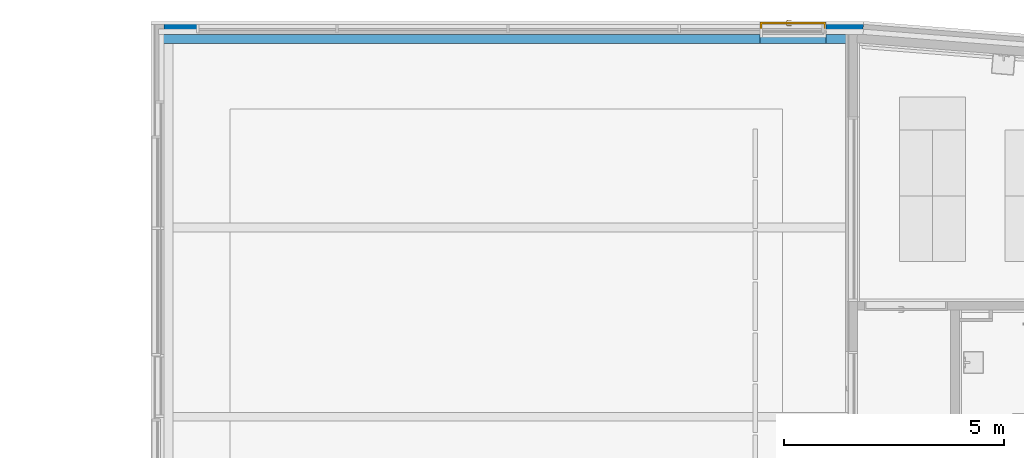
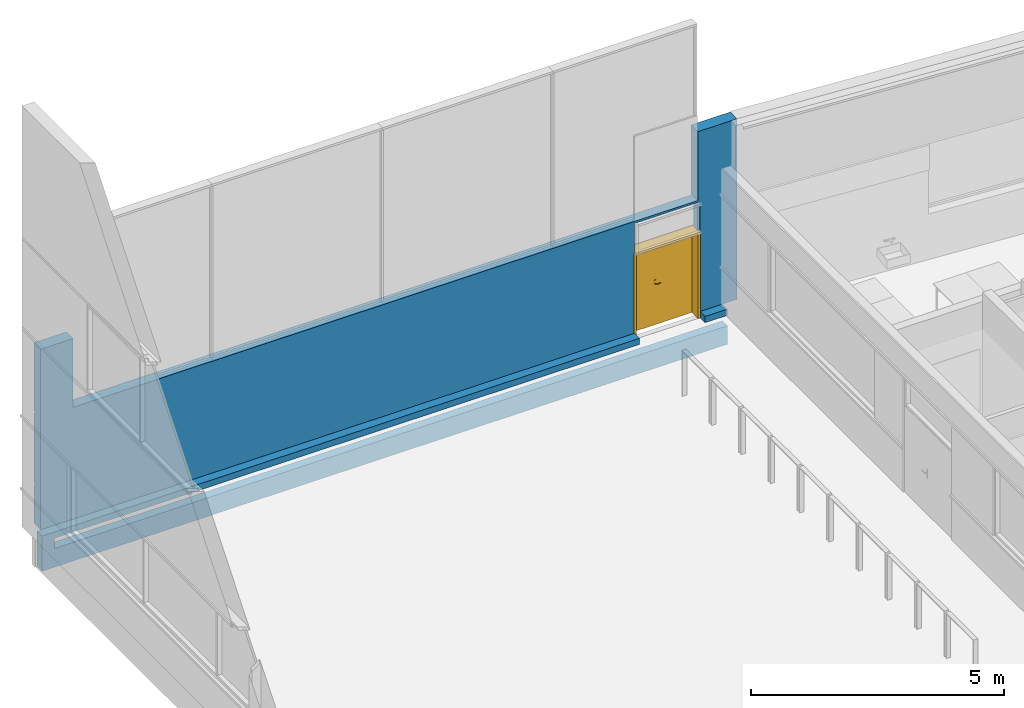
# One storey, part 105 of 137: 2 walls, 1 door, 1 opening.
"""IFC2X3 building model written with IfcOpenShell, lengths in centimetres."""

from ifc_helpers import new_model, entity, si_unit, converted_unit, derived_unit, direction, frame, frame_2d, origin, place, context, subcontext, project, spatial, rectangle, extrude, faceted_brep, source, transform, mapped, material, material_list, layer, layer_set, type_object, type_shapes, element, fill, save


model = new_model("IFC2X3")

# Units and contexts
model_context = context("Model", 3, precision=0.001, world=origin(), true_north=direction((6.12303176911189e-17, 1.0)))
body_context = subcontext(model_context, "Body", "Model", "MODEL_VIEW")
ifc_project = project(units=[si_unit("LENGTHUNIT", "METRE", prefix="CENTI"), si_unit("AREAUNIT", "SQUARE_METRE"), si_unit("VOLUMEUNIT", "CUBIC_METRE"), converted_unit("PLANEANGLEUNIT", "DEGREE", entity("IfcRatioMeasure", 0.0174532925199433), si_unit("PLANEANGLEUNIT", "RADIAN"), dimensions=[0, 0, 0, 0, 0, 0, 0]), si_unit("MASSUNIT", "GRAM", prefix="KILO"), si_unit("TIMEUNIT", "SECOND"), si_unit("FREQUENCYUNIT", "HERTZ"), si_unit("THERMODYNAMICTEMPERATUREUNIT", "DEGREE_CELSIUS"), derived_unit("THERMALTRANSMITTANCEUNIT", [(si_unit("MASSUNIT", "GRAM", prefix="KILO"), 1), (si_unit("THERMODYNAMICTEMPERATUREUNIT", "KELVIN"), -1), (si_unit("TIMEUNIT", "SECOND"), -3)]), derived_unit("VOLUMETRICFLOWRATEUNIT", [(si_unit("LENGTHUNIT", "METRE"), 3), (si_unit("TIMEUNIT", "SECOND"), -1)]), si_unit("ELECTRICCURRENTUNIT", "AMPERE"), si_unit("ELECTRICVOLTAGEUNIT", "VOLT"), si_unit("POWERUNIT", "WATT"), si_unit("FORCEUNIT", "NEWTON", prefix="KILO"), si_unit("ILLUMINANCEUNIT", "LUX"), si_unit("LUMINOUSFLUXUNIT", "LUMEN"), si_unit("LUMINOUSINTENSITYUNIT", "CANDELA"), derived_unit("USERDEFINED", [(si_unit("MASSUNIT", "GRAM", prefix="KILO"), -1), (si_unit("LENGTHUNIT", "METRE"), -2), (si_unit("TIMEUNIT", "SECOND"), 3), (si_unit("LUMINOUSFLUXUNIT", "LUMEN"), 1)]), derived_unit("LINEARVELOCITYUNIT", [(si_unit("LENGTHUNIT", "METRE"), 1), (si_unit("TIMEUNIT", "SECOND"), -1)]), si_unit("PRESSUREUNIT", "PASCAL"), derived_unit("USERDEFINED", [(si_unit("LENGTHUNIT", "METRE"), -2), (si_unit("MASSUNIT", "GRAM", prefix="KILO"), 1), (si_unit("TIMEUNIT", "SECOND"), -2)])], contexts=[model_context])

# Site, building, storey
site_placement = place(None, frame((8.62739174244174, -249.285249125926, 0.0)))
site = spatial("IfcSite", under=ifc_project, at=site_placement, Name="Default", CompositionType="ELEMENT")
building_placement = place(site_placement, origin())
building = spatial("IfcBuilding", under=site, at=building_placement, CompositionType="ELEMENT")
storey_placement = place(building_placement, origin())
storey = spatial("IfcBuildingStorey", under=building, at=storey_placement, Name="RDC", CompositionType="ELEMENT", Elevation=-8.82465566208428e-11)

# Wall
ifc_material_1 = material(Name="Béton, coulé sur place, gris")
ifc_layer = layer(ifc_material_1, 20.0)
ifc_layer_set = layer_set([ifc_layer], Name="Mur de base:BET 20")
wall_type_1 = type_object("IfcWallType", Name="Mur de base:BET 20", PredefinedType="STANDARD", material=ifc_layer_set)
wall_1_placement = place(storey_placement, frame((3033.9048277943, 7551.976551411, -70.0), z_axis=(0.0, 0.0, 1.0), x_axis=(-1.0, 0.0, 0.0)))
element("IfcWall", 1, at=wall_1_placement, inside=storey, type_object=wall_type_1, Name="Mur de base:BET 20", ObjectType="Mur de base:BET 20", context=body_context, shape_type="Brep", body=[
    faceted_brep([(0.0, -10.0, 0.0), (1537.0, -10.0, 0.0), (1557.0, -10.0, 0.0), (1565.24999999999, -10.0, 0.0), (1565.24999999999, -10.0, 85.0), (1557.0, -10.0, 85.0), (1537.0, -10.0, 85.0), (201.0, -10.0, 85.0), (201.0, -10.0, 70.0), (1537.0, -10.0, 70.0), (1537.0, -10.0, 45.0), (0.0, -10.0, 45.0), (1565.24999999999, 10.0, 0.0), (1557.0, 10.0, 0.0), (1537.0, 10.0, 0.0), (0.0, 10.0, 0.0), (0.0, 10.0, 45.0), (1537.0, 10.0, 45.0), (1537.0, 10.0, 70.0), (201.0, 10.0, 70.0), (201.0, 10.0, 85.0), (1537.0, 10.0, 85.0), (1557.0, 10.0, 85.0), (1565.24999999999, 10.0, 85.0)], [[[0, 1, 2, 3, 4, 5, 6, 7, 8, 9, 10, 11]], [[12, 13, 14, 15, 16, 17, 18, 19, 20, 21, 22, 23]], [[10, 17, 16, 11]], [[8, 7, 20, 19]], [[3, 2, 1, 0, 15, 14, 13, 12]], [[4, 3, 12, 23]], [[7, 6, 5, 4, 23, 22, 21, 20]], [[17, 10, 9, 18]], [[15, 0, 11, 16]], [[18, 9, 8, 19]]]),
    faceted_brep([(51.0, -10.0, 70.0), (0.0, -10.0, 70.0), (0.0, 10.0, 70.0), (51.0, 10.0, 70.0), (51.0, -10.0, 85.0), (51.0, 10.0, 85.0), (0.0, -10.0, 85.0), (0.0, 10.0, 85.0)], [[[0, 1, 2, 3]], [[4, 0, 3, 5]], [[6, 7, 2, 1]], [[6, 4, 5, 7]], [[7, 5, 3, 2]], [[4, 6, 1, 0]]]),
])

# Wall, opening, door
ifc_material_2 = material(Name="Tôle/Doublage(PROJET)")
ifc_material_3 = material(Name="Laine minérale")
ifc_material_list_1 = material_list([ifc_material_2, ifc_material_3, ifc_material_2])
wall_type_2 = type_object("IfcWallType", Name="Mur de base:MET PROJET 4 + ISO 23 + MET 1", PredefinedType="NOTDEFINED")
wall_2_placement = place(storey_placement, frame((1476.9048277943, 7575.476551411, 15.0)))
wall_2 = element("IfcWall", 2, at=wall_2_placement, inside=storey, type_object=wall_type_2, material=ifc_material_list_1, Name="Mur de base:MET PROJET 4 + ISO 23 + MET 1", ObjectType="Mur de base:MET PROJET 4 + ISO 23 + MET 1", context=body_context, shape_type="Brep", body=[
    faceted_brep([(0.0, -13.4999999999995, 436.0), (0.0, -13.4999999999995, 0.0), (1356.0, -13.4999999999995, 0.0), (1356.0, -13.4999999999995, 265.0), (1506.0, -13.4999999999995, 265.0), (1506.0, -13.4999999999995, 0.0), (1589.73891729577, -13.4999999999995, 0.0), (1589.73891729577, -13.4999999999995, 436.0), (1501.0, -13.4999999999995, 436.0), (1501.0, -13.4999999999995, 270.0), (74.0, -13.4999999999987, 270.0), (74.0, -13.4999999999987, 436.0), (1590.80471284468, 13.5000000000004, 95.0), (1506.0, 13.5000000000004, 95.0), (1506.0, 13.5000000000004, 265.0), (1590.80471284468, 13.5000000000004, 265.0), (0.0, 13.5000000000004, 436.0), (0.0, 13.5000000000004, 270.0), (0.0, 9.50000000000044, 270.0), (0.0, 9.49999999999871, 265.0), (0.0, 13.4999999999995, 265.0), (0.0, 13.5000000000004, 95.0), (0.0, 9.49999999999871, 95.0), (0.0, 9.50000000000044, 90.0), (0.0, 13.4999999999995, 90.0), (0.0, 13.5000000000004, 0.0), (0.0, -12.4999999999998, 0.0), (1356.0, -12.4999999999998, 0.0), (1356.0, 13.5000000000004, 0.0), (1356.0, 13.5000000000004, 90.0), (1356.0, 9.50000000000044, 90.0), (1356.0, 9.50000000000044, 95.0), (1356.0, 13.5000000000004, 95.0), (1356.0, 13.5000000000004, 265.0), (1356.0, 9.49999999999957, 265.0), (1590.80471284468, 13.5000000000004, 436.0), (1501.0, 13.5000000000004, 436.0), (1501.0, 13.5000000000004, 270.0), (1501.0, 9.50000000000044, 270.0), (74.0, 9.49999999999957, 270.0), (74.0, 13.5000000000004, 270.0), (74.0, 13.5000000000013, 436.0), (1590.64681720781, 9.50000000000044, 95.0), (1506.0, 9.50000000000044, 95.0), (1506.0, 9.50000000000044, 90.0), (1590.64681720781, 9.50000000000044, 90.0), (1590.80471284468, 13.5000000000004, 90.0), (1506.0, 13.5000000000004, 90.0), (1590.64681720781, 9.49999999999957, 270.0), (1590.64681720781, 9.49999999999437, 265.0), (1506.0, 9.49999999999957, 265.0), (1590.80471284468, 13.5000000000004, 270.0), (1589.77839120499, -12.4999999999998, 0.0), (1590.80471284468, 13.5000000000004, 0.0), (1506.0, 13.5000000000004, 0.0), (1506.0, -12.5000000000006, 0.0)], [[[0, 1, 2, 3, 4, 5, 6, 7, 8, 9, 10, 11]], [[12, 13, 14, 15]], [[1, 0, 16, 17, 18, 19, 20, 21, 22, 23, 24, 25, 26]], [[27, 28, 29, 30, 31, 32, 33, 34, 3, 2]], [[8, 7, 35, 36]], [[9, 8, 36, 37, 38]], [[11, 10, 39, 40, 41]], [[10, 9, 38, 39]], [[2, 1, 26, 27]], [[26, 25, 28, 27]], [[42, 43, 13, 12]], [[44, 45, 46, 47]], [[43, 42, 45, 44]], [[31, 22, 21, 32]], [[23, 30, 29, 24]], [[22, 31, 30, 23]], [[38, 48, 49, 50, 34, 19, 18, 39]], [[48, 38, 37, 51]], [[19, 34, 33, 20]], [[7, 6, 52, 53, 46, 45, 42, 12, 15, 49, 48, 51, 35]], [[5, 4, 50, 14, 13, 43, 44, 47, 54, 55]], [[4, 3, 34, 50]], [[50, 49, 15, 14]], [[39, 18, 17, 40]], [[53, 52, 55, 54]], [[52, 6, 5, 55]], [[16, 0, 11, 41]], [[47, 46, 53, 54]], [[36, 35, 51, 37]], [[28, 25, 24, 29]], [[32, 21, 20, 33]], [[16, 41, 40, 17]]]),
])
opening_placement = place(wall_2_placement, frame((1356.0, -13.5000000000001, -15.0)))
opening = element("IfcOpeningElement", 3, at=opening_placement, cuts=wall_2, Name="Tierce(R)_bois_mu:143 x 204 cm:1", ObjectType="Opening", context=body_context, shape_type="SweptSolid", body=[
    extrude(rectangle(XDim=206.999999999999, YDim=149.0, at=frame_2d((103.499999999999, 74.5000000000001), x_axis=(1.0, 0.0))), frame((0.0, 0.0, 0.0), z_axis=(0.0, 1.0, 0.0), x_axis=(0.0, 0.0, 1.0)), (0.0, 0.0, 1.0), 27.0),
])
ifc_material_4 = material(Name="Aluminium-Dorma Metal-Anodized Silver")
ifc_material_5 = material(Name="Porte - Cadre")
ifc_material_6 = material(Name="Porte - Panneau")
ifc_material_list_2 = material_list([ifc_material_4, ifc_material_5, ifc_material_6])
ifc_material_list_3 = material_list([ifc_material_4, ifc_material_5, ifc_material_6])
door_style = type_object("IfcDoorStyle", Name="143 x 204 cm", ConstructionType="NOTDEFINED", OperationType="NOTDEFINED", ParameterTakesPrecedence=False, Sizeable=False, material=ifc_material_list_3)
shared_shape = source(origin(), body_context, "Body", "Brep", [
    faceted_brep([(88.7025298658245, 3.69999999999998, 100.778044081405), (88.2974701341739, 3.69999999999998, 100.778044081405), (87.8999999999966, 3.69999999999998, 100.699999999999), (87.8999999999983, 3.69999999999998, 99.3000000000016), (88.2974701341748, 3.69999999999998, 99.2219559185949), (88.7025298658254, 3.69999999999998, 99.2219559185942), (89.1000000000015, 3.69999999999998, 99.2999999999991), (89.1000000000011, 3.69999999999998, 100.699999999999), (87.8999999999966, 5.94852045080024, 100.699999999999), (87.8999999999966, 5.94852045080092, 99.3000000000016), (88.2974701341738, 6.11315797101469, 100.778044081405), (88.7025298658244, 6.28093920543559, 100.778044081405), (87.0838906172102, 7.89957845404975, 100.778044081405), (86.9161093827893, 7.49451872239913, 100.778044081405), (78.5793122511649, 7.49451872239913, 100.778044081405), (78.411531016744, 7.89957845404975, 100.778044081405), (77.6451046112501, 7.13315204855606, 100.778044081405), (77.9315250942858, 6.84673156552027, 100.778044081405), (89.1000000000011, 6.44557672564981, 100.699999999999), (89.1000000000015, 6.44557672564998, 99.2999999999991), (88.7025298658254, 6.28093920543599, 99.2219559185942), (88.2974701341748, 6.11315797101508, 99.2219559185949), (86.9161093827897, 7.49451872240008, 99.2219559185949), (87.0838906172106, 7.8995784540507, 99.2219559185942), (78.4115310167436, 7.89957845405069, 99.2219559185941), (78.5793122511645, 7.49451872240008, 99.2219559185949), (77.9315250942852, 6.84673156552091, 99.2219559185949), (77.6451046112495, 7.13315204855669, 99.2219559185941), (86.7514718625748, 7.09704858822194, 100.699999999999), (86.7514718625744, 7.09704858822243, 99.3000000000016), (87.2485281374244, 8.29704858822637, 100.699999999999), (87.2485281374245, 8.29704858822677, 99.2999999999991), (82.7477108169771, 7.09704858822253, 100.699999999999), (78.7439497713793, 7.09704858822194, 100.699999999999), (78.7439497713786, 7.09704858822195, 99.3000000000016), (82.7477108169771, 7.09704858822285, 99.3000000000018), (82.7477108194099, 7.71249275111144, 100.787811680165), (82.2399422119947, 8.29704858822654, 100.699999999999), (78.2468934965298, 8.29704858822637, 100.699999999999), (83.2554791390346, 8.29704858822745, 99.2999999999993), (78.2468934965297, 8.29704858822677, 99.2999999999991), (82.7477107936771, 7.71249274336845, 99.2121883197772), (77.3640507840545, 7.41420587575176, 100.699999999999), (77.364050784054, 7.41420587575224, 99.2999999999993), (78.2125789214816, 6.5656777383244, 99.3000000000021), (78.2125789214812, 6.56567773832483, 100.699999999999)], [[[0, 1, 2, 3, 4, 5, 6, 7]], [[8, 9, 3, 2]], [[1, 10, 8, 2]], [[1, 0, 11, 12, 13, 10]], [[14, 15, 16, 17]], [[7, 18, 11, 0]], [[18, 7, 6, 19]], [[6, 5, 20, 19]], [[5, 4, 21, 22, 23, 20]], [[24, 25, 26, 27]], [[4, 3, 9, 21]], [[28, 29, 9, 8]], [[8, 10, 13, 28]], [[18, 30, 12, 11]], [[31, 30, 18, 19]], [[19, 20, 23, 31]], [[21, 9, 29, 22]], [[29, 28, 32, 33, 34, 35]], [[36, 32, 13]], [[37, 38, 15]], [[37, 12, 30]], [[36, 12, 37]], [[14, 32, 36]], [[36, 15, 14]], [[28, 13, 32]], [[32, 14, 33]], [[12, 36, 13]], [[15, 36, 37]], [[30, 31, 39, 40, 38, 37]], [[23, 41, 39]], [[24, 39, 41]], [[39, 31, 23]], [[39, 24, 40]], [[22, 35, 41]], [[41, 23, 22]], [[41, 35, 25]], [[35, 22, 29]], [[34, 25, 35]], [[24, 41, 25]], [[17, 16, 42, 43, 27, 26, 44, 45]], [[45, 44, 34, 33]], [[33, 14, 17, 45]], [[15, 38, 42, 16]], [[43, 42, 38, 40]], [[24, 27, 43, 40]], [[34, 44, 26, 25]]]),
    faceted_brep([(88.2974701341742, -1.30000000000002, 100.778044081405), (88.7025298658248, -1.30000000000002, 100.778044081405), (89.1000000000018, -1.30000000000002, 100.699999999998), (89.1000000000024, -1.30000000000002, 99.2999999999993), (88.7025298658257, -1.30000000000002, 99.2219559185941), (88.297470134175, -1.30000000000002, 99.2219559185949), (87.899999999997, -1.30000000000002, 99.3000000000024), (87.8999999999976, -1.30000000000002, 100.699999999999), (88.7025298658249, -3.90045754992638, 100.778044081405), (89.100000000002, -4.06509507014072, 100.699999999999), (88.2974701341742, -3.73267631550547, 100.778044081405), (86.9298602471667, -5.10028620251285, 100.778044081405), (87.0976414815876, -5.50534593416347, 100.778044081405), (78.4142453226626, -5.50534593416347, 100.778044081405), (78.5820265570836, -5.10028620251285, 100.778044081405), (77.9342394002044, -4.45249904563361, 100.778044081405), (77.6478189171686, -4.73891952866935, 100.778044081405), (87.8999999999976, -3.56803879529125, 100.699999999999), (87.899999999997, -3.56803879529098, 99.3000000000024), (88.297470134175, -3.7326763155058, 99.2219559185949), (88.7025298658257, -3.90045754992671, 99.2219559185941), (87.097641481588, -5.50534593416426, 99.2219559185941), (86.9298602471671, -5.10028620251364, 99.2219559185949), (78.5820265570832, -5.10028620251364, 99.2219559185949), (78.4142453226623, -5.50534593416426, 99.2219559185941), (77.6478189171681, -4.73891952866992, 99.2219559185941), (77.9342394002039, -4.45249904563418, 99.2219559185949), (89.1000000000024, -4.06509507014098, 99.2999999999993), (87.2622790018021, -5.90281606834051, 100.699999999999), (86.7652227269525, -4.70281606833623, 100.699999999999), (86.7652227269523, -4.70281606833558, 99.3000000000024), (87.2622790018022, -5.90281606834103, 99.2999999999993), (82.7559433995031, -5.31828027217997, 100.787811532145), (83.269230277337, -5.90281606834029, 100.699999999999), (78.2496078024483, -5.90281606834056, 100.699999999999), (82.755943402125, -4.70281606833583, 100.699999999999), (78.7466640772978, -4.70281606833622, 100.699999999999), (82.7559436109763, -4.70281606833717, 99.3000000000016), (78.7466640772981, -4.70281606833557, 99.3000000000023), (82.7559434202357, -5.31828027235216, 99.2121884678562), (82.2426572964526, -5.90281606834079, 99.2999999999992), (78.249607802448, -5.90281606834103, 99.2999999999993), (78.2152932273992, -4.17144521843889, 99.3000000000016), (77.366765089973, -5.01997335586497, 99.2999999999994), (77.3667650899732, -5.01997335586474, 100.699999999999), (78.2152932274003, -4.17144521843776, 100.699999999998)], [[[0, 1, 2, 3, 4, 5, 6, 7]], [[2, 1, 8, 9]], [[1, 0, 10, 11, 12, 8]], [[13, 14, 15, 16]], [[0, 7, 17, 10]], [[18, 17, 7, 6]], [[5, 19, 18, 6]], [[5, 4, 20, 21, 22, 19]], [[23, 24, 25, 26]], [[3, 27, 20, 4]], [[9, 27, 3, 2]], [[9, 8, 12, 28]], [[10, 17, 29, 11]], [[30, 29, 17, 18]], [[18, 19, 22, 30]], [[20, 27, 31, 21]], [[28, 31, 27, 9]], [[12, 32, 33]], [[13, 33, 32]], [[33, 28, 12]], [[33, 13, 34]], [[11, 35, 32]], [[32, 12, 11]], [[32, 35, 14]], [[35, 11, 29]], [[36, 14, 35]], [[13, 32, 14]], [[29, 30, 37, 38, 36, 35]], [[39, 37, 22]], [[40, 41, 24]], [[40, 21, 31]], [[39, 21, 40]], [[23, 37, 39]], [[39, 24, 23]], [[30, 22, 37]], [[37, 23, 38]], [[21, 39, 22]], [[24, 39, 40]], [[31, 28, 33, 34, 41, 40]], [[42, 26, 25, 43, 44, 16, 15, 45]], [[13, 16, 44, 34]], [[36, 45, 15, 14]], [[42, 45, 36, 38]], [[38, 23, 26, 42]], [[24, 41, 43, 25]], [[44, 43, 41, 34]]]),
    faceted_brep([(88.4999999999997, 3.19999999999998, 86.4641016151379), (89.5352761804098, 3.19999999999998, 86.6003983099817), (90.4999999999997, 3.19999999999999, 87.0), (90.4999999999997, 3.19999999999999, 108.0), (89.5352761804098, 3.19999999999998, 108.399601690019), (88.4999999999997, 3.19999999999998, 108.535898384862), (87.4647238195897, 3.19999999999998, 108.399601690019), (86.4999999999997, 3.19999999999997, 108.0), (86.4999999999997, 3.19999999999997, 87.0), (87.4647238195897, 3.19999999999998, 86.6003983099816), (88.4999999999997, 3.69999999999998, 108.535898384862), (89.5352761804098, 3.69999999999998, 108.399601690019), (90.4999999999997, 3.69999999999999, 108.0), (90.4999999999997, 3.69999999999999, 87.0), (89.5352761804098, 3.69999999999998, 86.6003983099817), (88.4999999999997, 3.69999999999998, 86.4641016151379), (87.4647238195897, 3.69999999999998, 86.6003983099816), (86.4999999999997, 3.69999999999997, 87.0), (86.4999999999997, 3.69999999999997, 108.0), (87.4647238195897, 3.69999999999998, 108.399601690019)], [[[0, 1, 2, 3, 4, 5, 6, 7, 8, 9]], [[10, 11, 12, 13, 14, 15, 16, 17, 18, 19]], [[6, 19, 18, 7]], [[5, 10, 19, 6]], [[4, 11, 10, 5]], [[4, 3, 12, 11]], [[12, 3, 2, 13]], [[1, 14, 13, 2]], [[0, 15, 14, 1]], [[9, 16, 15, 0]], [[9, 8, 17, 16]], [[17, 8, 7, 18]]]),
    faceted_brep([(88.4999999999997, -1.30000000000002, 86.4641016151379), (89.5352761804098, -1.30000000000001, 86.6003983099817), (90.4999999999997, -1.30000000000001, 87.0), (90.4999999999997, -1.30000000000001, 108.0), (89.5352761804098, -1.30000000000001, 108.399601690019), (88.4999999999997, -1.30000000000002, 108.535898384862), (87.4647238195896, -1.30000000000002, 108.399601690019), (86.4999999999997, -1.30000000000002, 108.0), (86.4999999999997, -1.30000000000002, 87.0), (87.4647238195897, -1.30000000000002, 86.6003983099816), (90.4999999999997, -0.800000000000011, 108.0), (90.4999999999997, -0.800000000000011, 87.0), (89.5352761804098, -0.800000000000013, 86.6003983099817), (88.4999999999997, -0.800000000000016, 86.4641016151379), (87.4647238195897, -0.800000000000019, 86.6003983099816), (86.4999999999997, -0.800000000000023, 87.0), (86.4999999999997, -0.800000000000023, 108.0), (87.4647238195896, -0.800000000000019, 108.399601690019), (88.4999999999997, -0.800000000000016, 108.535898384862), (89.5352761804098, -0.800000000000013, 108.399601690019)], [[[0, 1, 2, 3, 4, 5, 6, 7, 8, 9]], [[10, 11, 12, 13, 14, 15, 16, 17, 18, 19]], [[1, 12, 11, 2]], [[0, 13, 12, 1]], [[9, 14, 13, 0]], [[9, 8, 15, 14]], [[15, 8, 7, 16]], [[6, 17, 16, 7]], [[5, 18, 17, 6]], [[4, 19, 18, 5]], [[4, 3, 10, 19]], [[10, 3, 2, 11]]]),
    faceted_brep([(0.0, 0.0, 0.0), (0.0, 27.0, 0.0), (-1.0, 27.0, 0.0), (-1.0, 27.8000000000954, 0.0), (4.0, 27.8000000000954, 0.0), (4.0, 3.2, 0.0), (3.0, 3.2, 0.0), (3.0, -0.799999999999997, 0.0), (-1.0, -0.799999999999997, 0.0), (-1.0, 0.0, 0.0), (0.0, 0.0, 207.0), (0.0, 27.0, 207.0), (149.0, 27.0, 207.0), (149.0, 27.0, 0.0), (150.0, 27.0, 0.0), (150.0, 27.0, 208.0), (-1.0, 27.0, 208.0), (-1.0, 27.8000000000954, 208.0), (150.0, 27.8000000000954, 208.0), (150.0, 27.8000000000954, 0.0), (145.0, 27.8000000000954, 0.0), (145.0, 27.8000000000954, 203.0), (4.0, 27.8000000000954, 203.0), (4.0, 3.2, 203.0), (145.0, 3.2, 203.0), (145.0, 3.2, 0.0), (146.0, 3.2, 0.0), (146.0, 3.2, 204.0), (3.0, 3.2, 204.0), (3.0, -0.799999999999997, 204.0), (146.0, -0.799999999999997, 204.0), (146.0, -0.799999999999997, 0.0), (150.0, -0.799999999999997, 0.0), (150.0, -0.799999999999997, 208.0), (-1.0, -0.799999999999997, 208.0), (-1.0, 0.0, 208.0), (150.0, 0.0, 208.0), (150.0, 0.0, 0.0), (149.0, 0.0, 0.0), (149.0, 0.0, 207.0)], [[[0, 1, 2, 3, 4, 5, 6, 7, 8, 9]], [[1, 0, 10, 11]], [[2, 1, 11, 12, 13, 14, 15, 16]], [[3, 2, 16, 17]], [[4, 3, 17, 18, 19, 20, 21, 22]], [[5, 4, 22, 23]], [[6, 5, 23, 24, 25, 26, 27, 28]], [[7, 6, 28, 29]], [[8, 7, 29, 30, 31, 32, 33, 34]], [[9, 8, 34, 35]], [[0, 9, 35, 36, 37, 38, 39, 10]], [[12, 39, 38, 13]], [[38, 37, 32, 31, 26, 25, 20, 19, 14, 13]], [[18, 15, 14, 19]], [[24, 21, 20, 25]], [[30, 27, 26, 31]], [[36, 33, 32, 37]], [[11, 10, 39, 12]], [[17, 16, 15, 18]], [[23, 22, 21, 24]], [[29, 28, 27, 30]], [[35, 34, 33, 36]]]),
    faceted_brep([(146.0, -0.799999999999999, 204.0), (94.0, -0.799999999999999, 204.0), (94.0, -0.799999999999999, 0.0), (146.0, -0.799999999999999, 0.0), (146.0, 3.2, 204.0), (146.0, 3.2, 0.0), (94.0, 3.2, 0.0), (94.0, 3.2, 204.0)], [[[0, 1, 2, 3]], [[4, 5, 6, 7]], [[1, 0, 4, 7]], [[2, 1, 7, 6]], [[3, 2, 6, 5]], [[0, 3, 5, 4]]]),
    faceted_brep([(3.0, -0.799999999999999, 0.0), (94.0, -0.799999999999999, 0.0), (94.0, -0.799999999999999, 204.0), (3.0, -0.799999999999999, 204.0), (3.0, 3.2, 0.0), (3.0, 3.2, 204.0), (94.0, 3.2, 204.0), (94.0, 3.2, 0.0)], [[[0, 1, 2, 3]], [[4, 5, 6, 7]], [[1, 0, 4, 7]], [[2, 1, 7, 6]], [[3, 2, 6, 5]], [[0, 3, 5, 4]]]),
])
type_shapes(door_style, [shared_shape])
door_placement = place(opening_placement, frame((149.0, 27.0, 0.0), z_axis=(0.0, 0.0, 1.0), x_axis=(-1.0, 0.0, 0.0)))
door = element("IfcDoor", 4, at=door_placement, inside=storey, type_object=door_style, material=ifc_material_list_2, Name="Tierce(R)_bois_mu:143 x 204 cm", ObjectType="143 x 204 cm", OverallHeight=206.999999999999, OverallWidth=149.0, context=body_context, shape_type="MappedRepresentation", body=[
    mapped(shared_shape, transform((0.0, 0.0, 0.0), scale=1.0)),
])
fill(opening, door)

save(model, "model.ifc")
